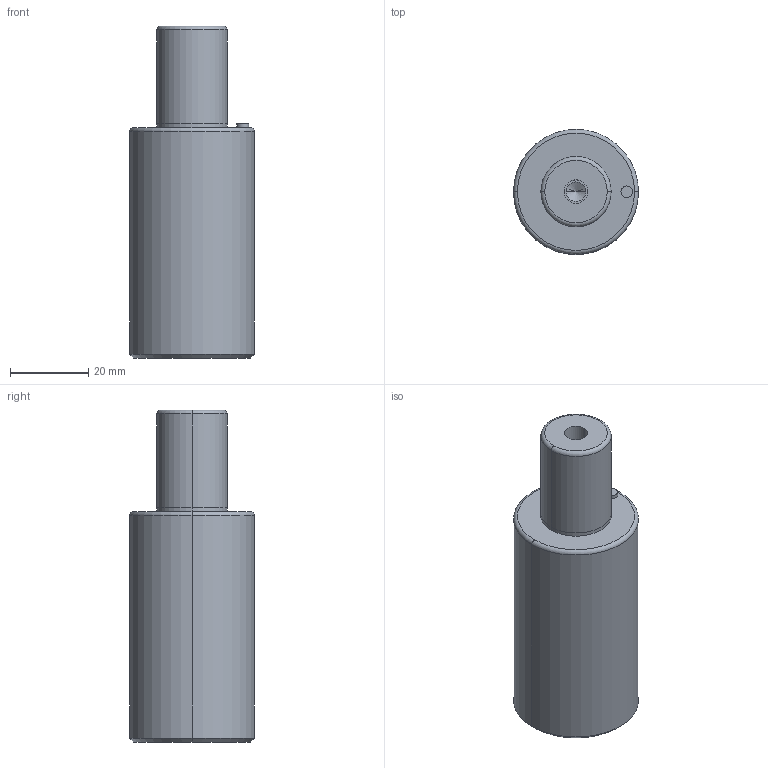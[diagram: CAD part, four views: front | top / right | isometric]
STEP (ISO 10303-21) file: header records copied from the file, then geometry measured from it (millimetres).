
FILE_DESCRIPTION(/* description */ (''),/* implementation_level */ '2;1');
FILE_NAME(/* name */ '3d_gsc32-25_03816_r00.stp',/* time_stamp */ '2011-01-10T14:15:22+09:00',/* author */ ('MISUMI'),/* organization */ (''),/* preprocessor_version */ 'ST-DEVELOPER v11',/* originating_system */ 'UGS - NX 5.0',/* authorisation */ '');
FILE_SCHEMA (('CONFIG_CONTROL_DESIGN'));
Length unit declared in the file: millimetre
Products named in the file (1): 3d_gsc32-25_03816_r00
Bounding box: 32 x 32 x 85 mm (x, y, z)
Volume: 53402.5 mm3; surface area: 9292.9 mm2
Topology: 1 solids, 1 shells, 32 faces, 66 edges, 38 vertices
Faces by surface type: cylinder 16, cone 6, plane 6, torus 4
Entity records: 912 total; most frequent: DIRECTION 168, CARTESIAN_POINT 133, ORIENTED_EDGE 124, AXIS2_PLACEMENT_3D 73, EDGE_CURVE 62, CIRCLE 40, EDGE_LOOP 38, VERTEX_POINT 38
